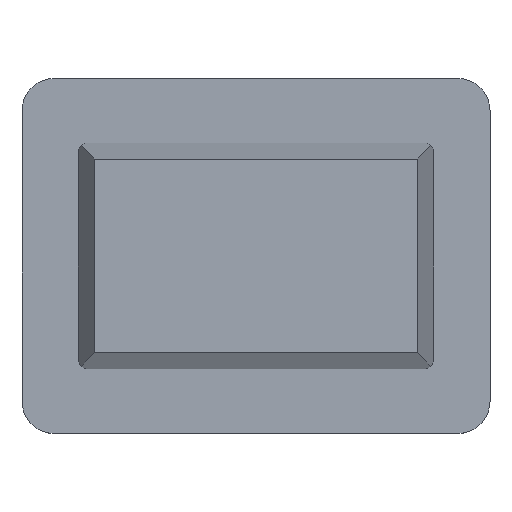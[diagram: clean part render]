
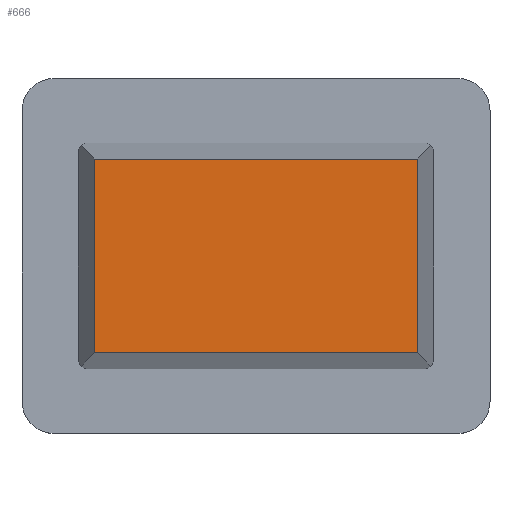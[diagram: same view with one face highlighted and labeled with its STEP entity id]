
A CAD part, top view. The second image highlights one B-rep face of the part: STEP entity #666.
In plain terms, the highlighted planar face has unit normal (0, 0, 1).
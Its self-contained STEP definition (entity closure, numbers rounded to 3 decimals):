
#22 = VERTEX_POINT('',#23);
#23 = CARTESIAN_POINT('',(10.,6.,-29.1));
#31 = B_SPLINE_SURFACE_WITH_KNOTS('',1,1,(
    (#32,#33)
    ,(#34,#35)),.UNSPECIFIED.,.F.,.F.,.F.,(2,2),(2,2),(0.,22.),(0.,1.),
  .PIECEWISE_BEZIER_KNOTS.);
#32 = CARTESIAN_POINT('',(-10.,6.,-29.1));
#33 = CARTESIAN_POINT('',(-11.,7.,-34.));
#34 = CARTESIAN_POINT('',(10.,6.,-29.1));
#35 = CARTESIAN_POINT('',(11.,7.,-34.));
#43 = B_SPLINE_SURFACE_WITH_KNOTS('',1,1,(
    (#44,#45)
    ,(#46,#47)),.UNSPECIFIED.,.F.,.F.,.F.,(2,2),(2,2),(0.,14.),(0.,1.),
  .PIECEWISE_BEZIER_KNOTS.);
#44 = CARTESIAN_POINT('',(10.,6.,-29.1));
#45 = CARTESIAN_POINT('',(11.,7.,-34.));
#46 = CARTESIAN_POINT('',(10.,-6.,-29.1));
#47 = CARTESIAN_POINT('',(11.,-7.,-34.));
#302 = VERTEX_POINT('',#303);
#303 = CARTESIAN_POINT('',(-10.,6.,-29.1));
#316 = B_SPLINE_SURFACE_WITH_KNOTS('',1,1,(
    (#317,#318)
    ,(#319,#320
  )),.UNSPECIFIED.,.F.,.F.,.F.,(2,2),(2,2),(0.,14.),(0.,1.),
  .PIECEWISE_BEZIER_KNOTS.);
#317 = CARTESIAN_POINT('',(-10.,-6.,-29.1));
#318 = CARTESIAN_POINT('',(-11.,-7.,-34.));
#319 = CARTESIAN_POINT('',(-10.,6.,-29.1));
#320 = CARTESIAN_POINT('',(-11.,7.,-34.));
#328 = EDGE_CURVE('',#302,#22,#329,.T.);
#329 = SURFACE_CURVE('',#330,(#334,#340),.PCURVE_S1.);
#330 = LINE('',#331,#332);
#331 = CARTESIAN_POINT('',(-10.,6.,-29.1));
#332 = VECTOR('',#333,1.);
#333 = DIRECTION('',(1.,0.,0.));
#334 = PCURVE('',#31,#335);
#335 = DEFINITIONAL_REPRESENTATION('',(#336),#339);
#336 = B_SPLINE_CURVE_WITH_KNOTS('',1,(#337,#338),.UNSPECIFIED.,.F.,.F.,
  (2,2),(0.,20.),.PIECEWISE_BEZIER_KNOTS.);
#337 = CARTESIAN_POINT('',(0.,0.));
#338 = CARTESIAN_POINT('',(22.,0.));
#339 = ( GEOMETRIC_REPRESENTATION_CONTEXT(2) 
PARAMETRIC_REPRESENTATION_CONTEXT() REPRESENTATION_CONTEXT('2D SPACE',''
  ) );
#340 = PCURVE('',#341,#346);
#341 = PLANE('',#342);
#342 = AXIS2_PLACEMENT_3D('',#343,#344,#345);
#343 = CARTESIAN_POINT('',(-10.,6.,-29.1));
#344 = DIRECTION('',(0.,0.,1.));
#345 = DIRECTION('',(0.857,-0.514,0.)
  );
#346 = DEFINITIONAL_REPRESENTATION('',(#347),#351);
#347 = LINE('',#348,#349);
#348 = CARTESIAN_POINT('',(0.,0.));
#349 = VECTOR('',#350,1.);
#350 = DIRECTION('',(0.857,0.514));
#351 = ( GEOMETRIC_REPRESENTATION_CONTEXT(2) 
PARAMETRIC_REPRESENTATION_CONTEXT() REPRESENTATION_CONTEXT('2D SPACE',''
  ) );
#357 = VERTEX_POINT('',#358);
#358 = CARTESIAN_POINT('',(10.,-6.,-29.1));
#373 = B_SPLINE_SURFACE_WITH_KNOTS('',1,1,(
    (#374,#375)
    ,(#376,#377
  )),.UNSPECIFIED.,.F.,.F.,.F.,(2,2),(2,2),(0.,22.),(0.,1.),
  .PIECEWISE_BEZIER_KNOTS.);
#374 = CARTESIAN_POINT('',(10.,-6.,-29.1));
#375 = CARTESIAN_POINT('',(11.,-7.,-34.));
#376 = CARTESIAN_POINT('',(-10.,-6.,-29.1));
#377 = CARTESIAN_POINT('',(-11.,-7.,-34.));
#620 = EDGE_CURVE('',#22,#357,#621,.T.);
#621 = SURFACE_CURVE('',#622,(#626,#632),.PCURVE_S1.);
#622 = LINE('',#623,#624);
#623 = CARTESIAN_POINT('',(10.,6.,-29.1));
#624 = VECTOR('',#625,1.);
#625 = DIRECTION('',(0.,-1.,0.));
#626 = PCURVE('',#43,#627);
#627 = DEFINITIONAL_REPRESENTATION('',(#628),#631);
#628 = B_SPLINE_CURVE_WITH_KNOTS('',1,(#629,#630),.UNSPECIFIED.,.F.,.F.,
  (2,2),(0.,12.),.PIECEWISE_BEZIER_KNOTS.);
#629 = CARTESIAN_POINT('',(0.,0.));
#630 = CARTESIAN_POINT('',(14.,0.));
#631 = ( GEOMETRIC_REPRESENTATION_CONTEXT(2) 
PARAMETRIC_REPRESENTATION_CONTEXT() REPRESENTATION_CONTEXT('2D SPACE',''
  ) );
#632 = PCURVE('',#341,#633);
#633 = DEFINITIONAL_REPRESENTATION('',(#634),#638);
#634 = LINE('',#635,#636);
#635 = CARTESIAN_POINT('',(17.15,10.29));
#636 = VECTOR('',#637,1.);
#637 = DIRECTION('',(0.514,-0.857));
#638 = ( GEOMETRIC_REPRESENTATION_CONTEXT(2) 
PARAMETRIC_REPRESENTATION_CONTEXT() REPRESENTATION_CONTEXT('2D SPACE',''
  ) );
#666 = ADVANCED_FACE('',(#667),#341,.T.);
#667 = FACE_BOUND('',#668,.F.);
#668 = EDGE_LOOP('',(#669,#670,#671,#693));
#669 = ORIENTED_EDGE('',*,*,#328,.T.);
#670 = ORIENTED_EDGE('',*,*,#620,.T.);
#671 = ORIENTED_EDGE('',*,*,#672,.T.);
#672 = EDGE_CURVE('',#357,#673,#675,.T.);
#673 = VERTEX_POINT('',#674);
#674 = CARTESIAN_POINT('',(-10.,-6.,-29.1));
#675 = SURFACE_CURVE('',#676,(#680,#687),.PCURVE_S1.);
#676 = LINE('',#677,#678);
#677 = CARTESIAN_POINT('',(10.,-6.,-29.1));
#678 = VECTOR('',#679,1.);
#679 = DIRECTION('',(-1.,0.,0.));
#680 = PCURVE('',#341,#681);
#681 = DEFINITIONAL_REPRESENTATION('',(#682),#686);
#682 = LINE('',#683,#684);
#683 = CARTESIAN_POINT('',(23.324,0.));
#684 = VECTOR('',#685,1.);
#685 = DIRECTION('',(-0.857,-0.514));
#686 = ( GEOMETRIC_REPRESENTATION_CONTEXT(2) 
PARAMETRIC_REPRESENTATION_CONTEXT() REPRESENTATION_CONTEXT('2D SPACE',''
  ) );
#687 = PCURVE('',#373,#688);
#688 = DEFINITIONAL_REPRESENTATION('',(#689),#692);
#689 = B_SPLINE_CURVE_WITH_KNOTS('',1,(#690,#691),.UNSPECIFIED.,.F.,.F.,
  (2,2),(0.,20.),.PIECEWISE_BEZIER_KNOTS.);
#690 = CARTESIAN_POINT('',(0.,0.));
#691 = CARTESIAN_POINT('',(22.,0.));
#692 = ( GEOMETRIC_REPRESENTATION_CONTEXT(2) 
PARAMETRIC_REPRESENTATION_CONTEXT() REPRESENTATION_CONTEXT('2D SPACE',''
  ) );
#693 = ORIENTED_EDGE('',*,*,#694,.T.);
#694 = EDGE_CURVE('',#673,#302,#695,.T.);
#695 = SURFACE_CURVE('',#696,(#700,#707),.PCURVE_S1.);
#696 = LINE('',#697,#698);
#697 = CARTESIAN_POINT('',(-10.,-6.,-29.1));
#698 = VECTOR('',#699,1.);
#699 = DIRECTION('',(0.,1.,0.));
#700 = PCURVE('',#341,#701);
#701 = DEFINITIONAL_REPRESENTATION('',(#702),#706);
#702 = LINE('',#703,#704);
#703 = CARTESIAN_POINT('',(6.174,-10.29));
#704 = VECTOR('',#705,1.);
#705 = DIRECTION('',(-0.514,0.857));
#706 = ( GEOMETRIC_REPRESENTATION_CONTEXT(2) 
PARAMETRIC_REPRESENTATION_CONTEXT() REPRESENTATION_CONTEXT('2D SPACE',''
  ) );
#707 = PCURVE('',#316,#708);
#708 = DEFINITIONAL_REPRESENTATION('',(#709),#712);
#709 = B_SPLINE_CURVE_WITH_KNOTS('',1,(#710,#711),.UNSPECIFIED.,.F.,.F.,
  (2,2),(0.,12.),.PIECEWISE_BEZIER_KNOTS.);
#710 = CARTESIAN_POINT('',(0.,0.));
#711 = CARTESIAN_POINT('',(14.,0.));
#712 = ( GEOMETRIC_REPRESENTATION_CONTEXT(2) 
PARAMETRIC_REPRESENTATION_CONTEXT() REPRESENTATION_CONTEXT('2D SPACE',''
  ) );
